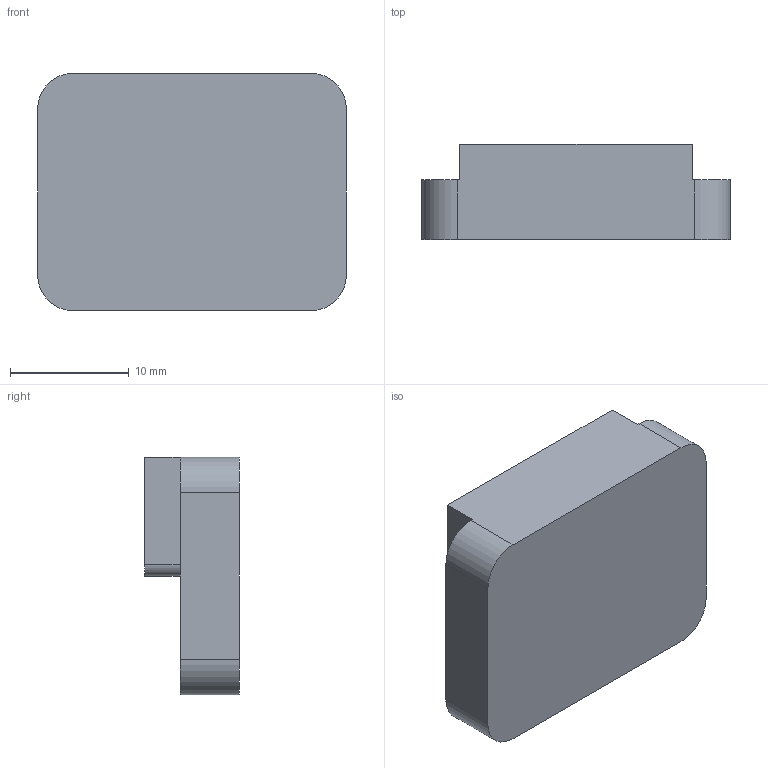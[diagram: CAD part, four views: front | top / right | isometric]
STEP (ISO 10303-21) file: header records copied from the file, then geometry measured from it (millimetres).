
FILE_DESCRIPTION (( 'STEP AP203' ), '1' );
FILE_NAME ('棠沺諶7.7.STEP', '2026-07-07T08:27:52', ( '' ), ( '' ), 'SwSTEP 2.0', 'SolidWorks 2024', '' );
FILE_SCHEMA (( 'CONFIG_CONTROL_DESIGN' ));
Length unit declared in the file: millimetre
Products named in the file (1): 磁铁扣7.7
Bounding box: 26 x 8 x 20 mm (x, y, z)
Volume: 2973 mm3; surface area: 1824.8 mm2
Topology: 1 solids, 1 shells, 33 faces, 78 edges, 52 vertices
Faces by surface type: plane 19, cylinder 14
Entity records: 1037 total; most frequent: DIRECTION 174, CARTESIAN_POINT 164, ORIENTED_EDGE 156, EDGE_CURVE 78, AXIS2_PLACEMENT_3D 62, VERTEX_POINT 52, LINE 50, VECTOR 50
